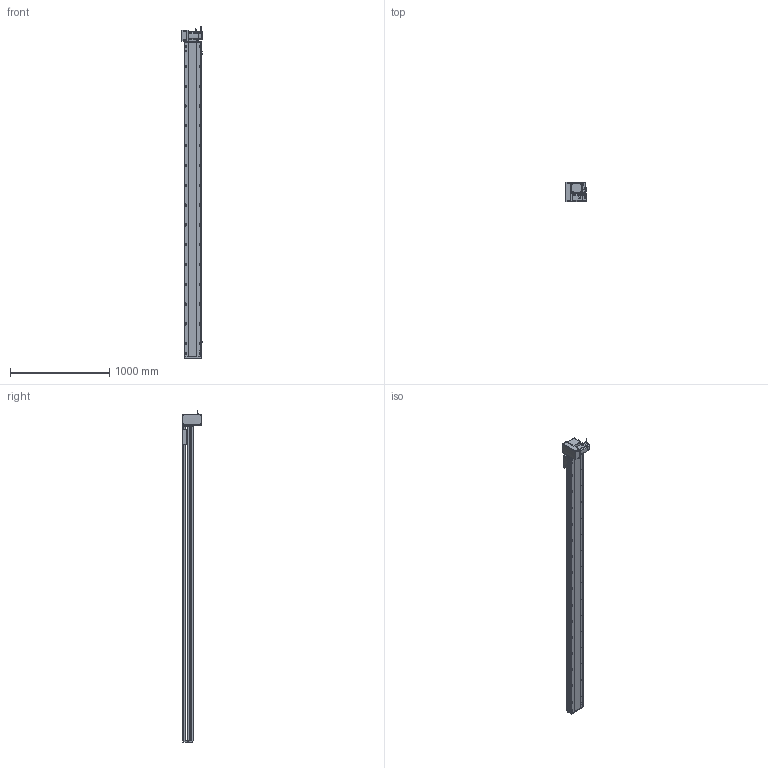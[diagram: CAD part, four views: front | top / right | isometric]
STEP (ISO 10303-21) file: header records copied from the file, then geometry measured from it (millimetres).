
FILE_DESCRIPTION (( 'STEP AP214' ), '1' );
FILE_NAME ('RTB17S-XX-2900-LM-M75-C4.STEP', '2025-12-12T00:49:07', ( '' ), ( '' ), 'SwSTEP 2.0', 'SolidWorks 2018', '' );
FILE_SCHEMA (( 'AUTOMOTIVE_DESIGN' ));
Length unit declared in the file: millimetre
Products named in the file (15): RTB17-R-011菁釱^RTB17S-XX-XX-LM-M75-C4; RTB22S-GY-017P^RTB17S-LM-々湍釱蚾饜-750W_RTB17S-XX-XX-LM-M75-C4; RTH13-BL-012覜茼え俋离^RTB17S-賑釱_RTB17S-XX-XX-LM-M75-C4; RTB22S-GY-005P^RTB17S-LM-々湍釱蚾饜-750W_RTB17S-XX-XX-LM-M75-C4; EE672^RTB17S-XX-XX-LM-M75-C4; RTB17S-XX-2900-LM-M75-C4; RTB22S-GY-018P^RTB17S-LM-々湍釱蚾饜-750W_RTB17S-XX-XX-LM-M75-C4; RTB17S-LM-々湍釱蚾饜-750W^RTB17S-XX-XX-LM-M75-C4; 750W萇儂^RTB17S-XX-XX-LM-M75-C4; RTB17S-L-001-耜醱啣^RTB17S-XX-XX-LM-M75-C4; RTB17S-L-007奻裔^RTB17S-XX-XX-LM-M75-C4; RTB17S-L-014-T20-P75--々湍釱^RTB17S-LM-々湍釱蚾饜-750W_RTB17S-XX-XX-LM-M75-C4; RTB17S-L-004-賑釱^RTB17S-賑釱_RTB17S-XX-XX-LM-M75-C4; RTB17S-賑釱^RTB17S-XX-XX-LM-M75-C4; RTB22S-GY-008-M75--萇儂啣^RTB17S-LM-々湍釱蚾饜-750W_RTB17S-XX-XX-LM-M75-C4
Assembly tree (17 placements, depth 3):
  RTB17S-XX-2900-LM-M75-C4
    RTB17-R-011菁釱^RTB17S-XX-XX-LM-M75-C4
    EE672^RTB17S-XX-XX-LM-M75-C4  x3
    RTB17S-L-001-耜醱啣^RTB17S-XX-XX-LM-M75-C4
    RTB17S-賑釱^RTB17S-XX-XX-LM-M75-C4
      RTB17S-L-004-賑釱^RTB17S-賑釱_RTB17S-XX-XX-LM-M75-C4
      RTH13-BL-012覜茼え俋离^RTB17S-賑釱_RTB17S-XX-XX-LM-M75-C4
    RTB17S-L-007奻裔^RTB17S-XX-XX-LM-M75-C4
    750W萇儂^RTB17S-XX-XX-LM-M75-C4
    RTB17S-LM-々湍釱蚾饜-750W^RTB17S-XX-XX-LM-M75-C4
      RTB17S-L-014-T20-P75--々湍釱^RTB17S-LM-々湍釱蚾饜-750W_RTB17S-XX-XX-LM-M75-C4
      RTB22S-GY-005P^RTB17S-LM-々湍釱蚾饜-750W_RTB17S-XX-XX-LM-M75-C4
      RTB22S-GY-017P^RTB17S-LM-々湍釱蚾饜-750W_RTB17S-XX-XX-LM-M75-C4  x2
      RTB22S-GY-008-M75--萇儂啣^RTB17S-LM-々湍釱蚾饜-750W_RTB17S-XX-XX-LM-M75-C4
      RTB22S-GY-018P^RTB17S-LM-々湍釱蚾饜-750W_RTB17S-XX-XX-LM-M75-C4
Bounding box: 210.4 x 200 x 3352.2 mm (x, y, z)
Volume: 24075719.8 mm3; surface area: 4405643.9 mm2
Topology: 17 solids, 17 shells, 2249 faces, 6322 edges, 4094 vertices
Faces by surface type: plane 990, cylinder 843, bspline 294, cone 110, sphere 8, torus 4
Entity records: 65782 total; most frequent: CARTESIAN_POINT 19586, ORIENTED_EDGE 9488, DIRECTION 8762, EDGE_CURVE 4744, AXIS2_PLACEMENT_3D 3114, VERTEX_POINT 3098, VECTOR 2534, LINE 2534
